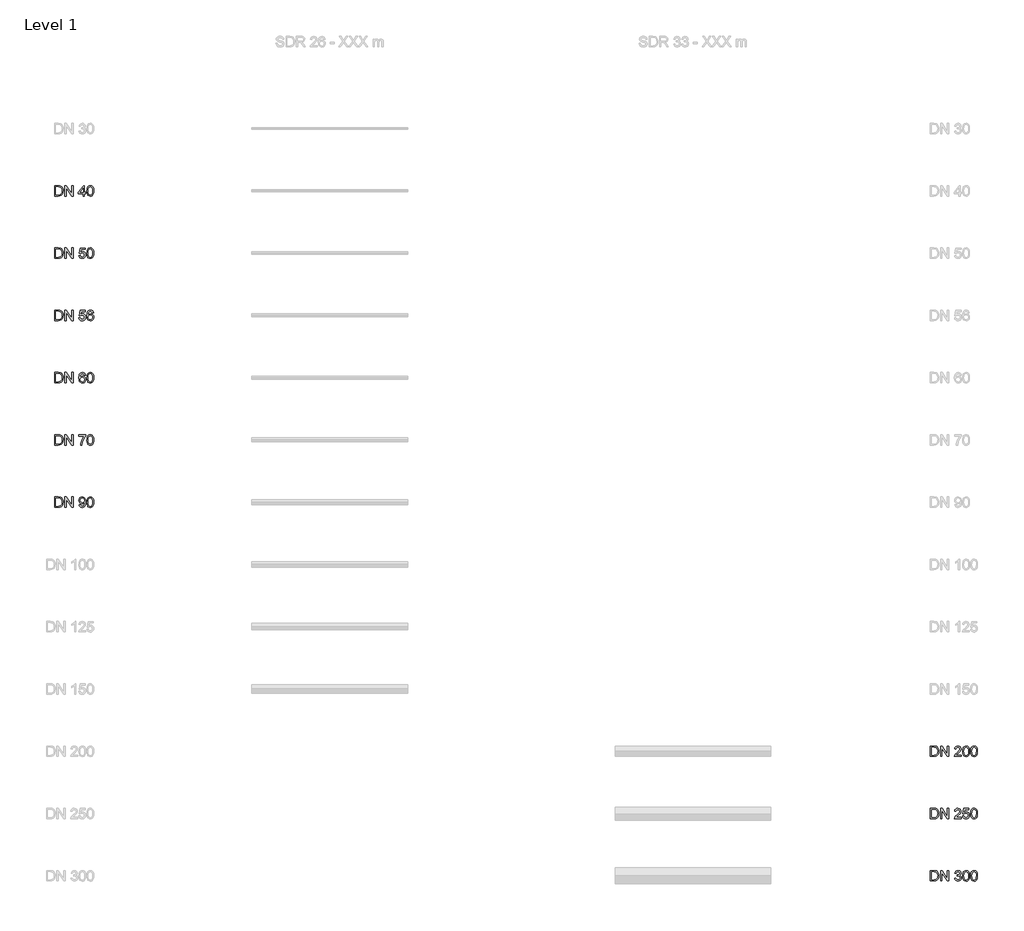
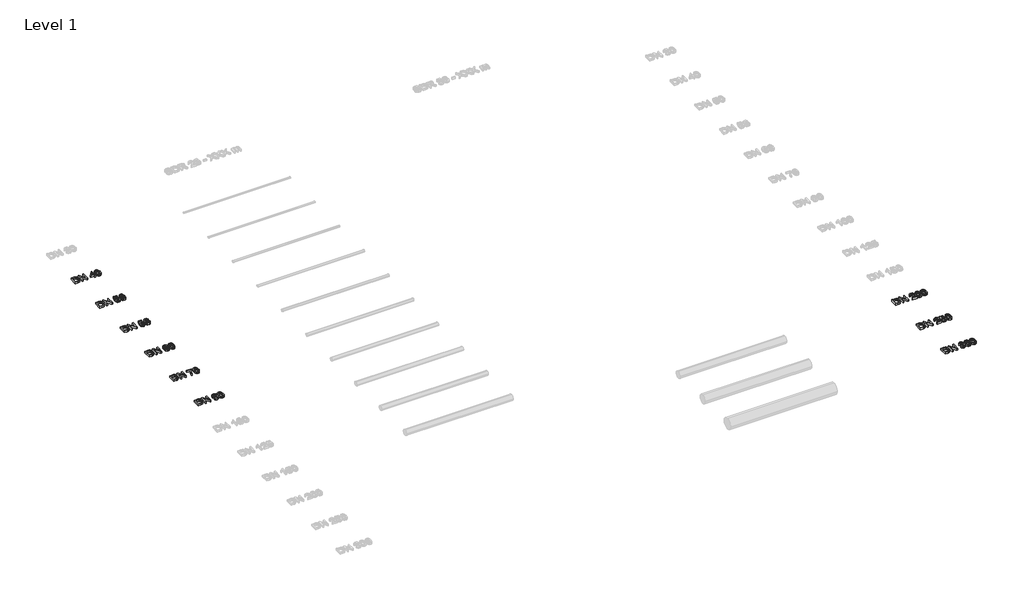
# One storey, part 2 of 4: 9 proxies.
"""IFC4 building model written with IfcOpenShell, lengths in millimetres."""

import ifcopenshell
import ifcopenshell.guid

model = None  # the IFC model being written
_history = None  # IfcOwnerHistory: only IFC2X3 demands one
_inside = {}  # id of a spatial element -> (the spatial element, [elements in it])
_under = {}  # id of a project, library or spatial element -> (it, [spatial elements below it])
_declared = {}  # id of a project -> (the project, [libraries it declares])
_typed = {}  # id of a type object -> (the type object, [elements of that type])
_made_of = {}  # id of a material, layer set ... -> (it, [elements and type objects made of it])


def new_model(schema):
    """Start an empty IFC model of exactly this schema.

    Asked for "IFC4X3", IfcOpenShell would pick the latest addendum, in which some entities
    have other attributes; the version numbers below select the first issue.
    IFC2X3 requires an IfcOwnerHistory on every rooted entity: one is made here for all.
    """
    global model, _history
    if schema == "IFC4X3":
        model = ifcopenshell.file(schema_version=(4, 3, 0, 0))
    else:
        model = ifcopenshell.file(schema=schema)
    _inside.clear()
    _under.clear()
    _declared.clear()
    _typed.clear()
    _made_of.clear()
    _history = None
    if model.schema == "IFC2X3":
        org = make("IfcOrganization", Name="unknown")
        user = make(
            "IfcPersonAndOrganization",
            ThePerson=make("IfcPerson", FamilyName="unknown"),
            TheOrganization=org,
        )
        app = make(
            "IfcApplication",
            ApplicationDeveloper=org,
            Version="unknown",
            ApplicationFullName="unknown",
            ApplicationIdentifier="unknown",
        )
        _history = make(
            "IfcOwnerHistory",
            OwningUser=user,
            OwningApplication=app,
            ChangeAction="ADDED",
            CreationDate=0,
        )
    return model


def make(cls, **values):
    """One entity of the class cls with the attributes given. An attribute that is None is left unset."""
    return model.create_entity(
        cls, **{name: value for name, value in values.items() if value is not None}
    )


def rooted(cls, **values):
    """An entity with a GlobalId (a new one), such as an element, a storey or a relation."""
    return make(cls, GlobalId=ifcopenshell.guid.new(), OwnerHistory=_history, **values)


def si_unit(unit_type, name, prefix=None):
    """IfcSIUnit, for example si_unit("LENGTHUNIT", "METRE", prefix="MILLI")."""
    return make("IfcSIUnit", UnitType=unit_type, Prefix=prefix, Name=name)


def assignment(units):
    """IfcUnitAssignment: the units of a project."""
    return None if units is None else make("IfcUnitAssignment", Units=units)


def point(xyz):
    """IfcCartesianPoint."""
    return None if xyz is None else make("IfcCartesianPoint", Coordinates=xyz)


def direction(xyz):
    """IfcDirection."""
    return None if xyz is None else make("IfcDirection", DirectionRatios=xyz)


def frame(location, z_axis=None, x_axis=None):
    """IfcAxis2Placement3D, a coordinate frame: its origin and axes. An axis left out is left unset."""
    return make(
        "IfcAxis2Placement3D",
        Location=point(location),
        Axis=direction(z_axis),
        RefDirection=direction(x_axis),
    )


def origin():
    """The frame at (0, 0, 0) with its axes left unset."""
    return frame((0.0, 0.0, 0.0))


def origin_with_axes():
    """The frame at (0, 0, 0) with the z axis (0, 0, 1) and the x axis (1, 0, 0) written out."""
    return frame((0.0, 0.0, 0.0), z_axis=(0.0, 0.0, 1.0), x_axis=(1.0, 0.0, 0.0))


def place(relative_to, where):
    """IfcLocalPlacement: puts the frame where relative to a parent placement (None: the world)."""
    return make(
        "IfcLocalPlacement", PlacementRelTo=relative_to, RelativePlacement=where
    )


def context(
    kind, dimensions, precision=None, world=None, true_north=None, identifier=None
):
    """IfcGeometricRepresentationContext, for example the 3D "Model" context."""
    return make(
        "IfcGeometricRepresentationContext",
        ContextIdentifier=identifier,
        ContextType=kind,
        CoordinateSpaceDimension=dimensions,
        Precision=precision,
        WorldCoordinateSystem=world,
        TrueNorth=true_north,
    )


def project(units=None, contexts=None):
    """IfcProject with its units and contexts."""
    return rooted(
        "IfcProject",
        Name="project",
        RepresentationContexts=contexts,
        UnitsInContext=assignment(units),
    )


def spatial(cls, under=None, at=None, **own):
    """A site, building, storey or space (cls), placed at a placement, below another one or the project."""
    s = rooted(cls, ObjectPlacement=at, **own)
    if under is not None:
        _under.setdefault(under.id(), (under, []))[1].append(s)
    return s


def polyline(points):
    """IfcPolyline through the points."""
    return make("IfcPolyline", Points=[point(p) for p in points])


def outline(outer, holes=None, kind="AREA"):
    """IfcArbitraryClosedProfileDef: a profile drawn as a closed curve; with holes, ...WithVoids."""
    if holes is None:
        return make("IfcArbitraryClosedProfileDef", ProfileType=kind, OuterCurve=outer)
    return make(
        "IfcArbitraryProfileDefWithVoids",
        ProfileType=kind,
        OuterCurve=outer,
        InnerCurves=holes,
    )


def extrude(swept, where, along, depth):
    """IfcExtrudedAreaSolid: the profile swept, set in the frame where, extruded along a direction by depth."""
    return make(
        "IfcExtrudedAreaSolid",
        SweptArea=swept,
        Position=where,
        ExtrudedDirection=direction(along),
        Depth=depth,
    )


def shape(context_of_items, identifier, shape_type, items):
    """IfcShapeRepresentation: the items that make up one representation, for example the "Body"."""
    return make(
        "IfcShapeRepresentation",
        ContextOfItems=context_of_items,
        RepresentationIdentifier=identifier,
        RepresentationType=shape_type,
        Items=items,
    )


def made_of(thing, what):
    """Note that an element or type object is made of a material, layer set ...; save() writes the relation."""
    if what is not None:
        _made_of.setdefault(what.id(), (what, []))[1].append(thing)
    return thing


def element(
    cls,
    number,
    at=None,
    inside=None,
    cuts=None,
    type_object=None,
    material=None,
    context=None,
    identifier="Body",
    shape_type=None,
    held_by="IfcProductDefinitionShape",
    body=None,
    shapes=None,
    **own,
):
    """One element of the class cls, such as IfcWall. Its Tag is "e" and its number.

    at: its placement. inside: the storey or other place that contains it. cuts: it is an
    opening in that element (IfcRelVoidsElement). A single representation is given by context,
    identifier, shape_type and body (its items); several are given by shapes. held_by: the class
    of the entity that holds the representations. save() writes the other relations.
    """
    e = rooted(cls, Tag="e%d" % number, ObjectPlacement=at, **own)
    if body is not None:
        shapes = [shape(context, identifier, shape_type, body)]
    if shapes is not None:
        e.Representation = make(held_by, Representations=shapes)
    if inside is not None:
        _inside.setdefault(inside.id(), (inside, []))[1].append(e)
    if cuts is not None:
        rooted(
            "IfcRelVoidsElement", RelatingBuildingElement=cuts, RelatedOpeningElement=e
        )
    if type_object is not None:
        _typed.setdefault(type_object.id(), (type_object, []))[1].append(e)
    return made_of(e, material)


def aggregate(whole, parts):
    """IfcRelAggregates: a whole, such as a stair, and the parts it consists of."""
    return rooted("IfcRelAggregates", RelatingObject=whole, RelatedObjects=parts)


def save(model, path):
    """Write the relations noted so far, then the file.

    IfcRelAggregates (storeys below a building ...), IfcRelContainedInSpatialStructure (elements
    in a storey), IfcRelDefinesByType, IfcRelAssociatesMaterial and IfcRelDeclares: one each for
    every whole, place, type object, material and project.
    """
    for whole, parts in _under.values():
        aggregate(whole, parts)
    for where, things in _inside.values():
        rooted(
            "IfcRelContainedInSpatialStructure",
            RelatedElements=things,
            RelatingStructure=where,
        )
    for kind, things in _typed.values():
        rooted("IfcRelDefinesByType", RelatedObjects=things, RelatingType=kind)
    for what, things in _made_of.values():
        rooted("IfcRelAssociatesMaterial", RelatedObjects=things, RelatingMaterial=what)
    for by, libraries in _declared.values():
        rooted("IfcRelDeclares", RelatingContext=by, RelatedDefinitions=libraries)
    model.write(path)


model = new_model("IFC4")

# Units and contexts
model_context = context("Model", 3, world=origin())
ifc_project = project(units=[si_unit("LENGTHUNIT", "METRE", prefix="MILLI")], contexts=[model_context])

# Site, building, storey
site = spatial("IfcSite", under=ifc_project)
building = spatial("IfcBuilding", under=site)
storey = spatial("IfcBuildingStorey", under=building, Name="Level 1", Elevation=0.0)

# Proxies
placement = place(None, origin())
element("IfcBuildingElementProxy", 1, Name="200mm Arial", ObjectType="200mm Arial", at=placement, inside=storey, context=model_context, shape_type="SweptSolid", body=[
    extrude(outline(polyline([(-19337.4878779, -713.949573), (-19337.4878779, -513.0369527), (-19268.17891, -513.0369527), (-19232.3226782, -515.9309577), (-19216.3075487, -521.5105013), (-19202.7940167, -530.302881), (-19188.90034, -545.606772), (-19179.0043144, -564.6385338), (-19173.0814143, -587.0302846), (-19171.1071142, -612.4141423), (-19176.4536659, -652.9547382), (-19190.187927, -682.2136195), (-19208.5329759, -700.436041), (-19232.5434074, -710.5160077), (-19264.8434466, -713.949573), (-19337.4878779, -713.949573)]), holes=[polyline([(-19312.3738004, -688.8354954), (-19267.9336553, -688.8354954), (-19235.6090907, -685.2057264), (-19216.9697363, -674.9540815), (-19208.2448016, -664.0831685), (-19201.6903707, -650.0116822), (-19197.5884865, -632.6783089), (-19196.2211917, -612.0217348), (-19198.9005989, -584.6513144), (-19206.9388205, -564.4423301), (-19218.8152776, -550.5609162), (-19233.0093913, -542.1732067), (-19268.6203684, -538.1510302), (-19312.3738004, -538.1510302), (-19312.3738004, -688.8354954)])]), origin_with_axes(), (0.0, 0.0, 1.0), 50.0),
    extrude(outline(polyline([(-19136.5752576, -713.949573), (-19136.5752576, -513.0369527), (-19109.6953465, -513.0369527), (-19004.7263505, -672.2072292), (-19004.7263505, -513.0369527), (-18979.612273, -513.0369527), (-18979.612273, -713.949573), (-19006.4921841, -713.949573), (-19111.4611801, -554.7302454), (-19111.4611801, -713.949573), (-19136.5752576, -713.949573)])), origin_with_axes(), (0.0, 0.0, 1.0), 50.0),
    extrude(outline(polyline([(-18784.9781721, -713.949573), (-18784.9781721, -666.8606776), (-18876.0167031, -666.8606776), (-18876.0167031, -641.7466), (-18778.6996527, -516.1762123), (-18759.8640945, -516.1762123), (-18759.8640945, -641.7466), (-18734.750017, -641.7466), (-18734.750017, -666.8606776), (-18759.8640945, -666.8606776), (-18759.8640945, -713.949573), (-18784.9781721, -713.949573)]), holes=[polyline([(-18784.9781721, -641.7466), (-18784.9781721, -564.1480245), (-18845.1146156, -641.7466), (-18784.9781721, -641.7466)])]), origin_with_axes(), (0.0, 0.0, 1.0), 50.0),
    extrude(outline(polyline([(-18712.7751992, -615.1119436), (-18710.9296578, -582.9529258), (-18705.3930338, -557.3054194), (-18696.2205094, -537.7770168), (-18683.4672669, -523.9753106), (-18667.0413358, -515.7715422), (-18646.8507456, -513.0369527), (-18631.3751764, -514.6556334), (-18617.5182879, -519.5116758), (-18605.930005, -527.4150073), (-18597.2602527, -538.1755557), (-18585.4880288, -567.9004209), (-18580.9262921, -615.1119436), (-18582.7534393, -647.0870203), (-18588.2348811, -672.6732131), (-18597.3522232, -692.2200098), (-18610.0870716, -706.0768983), (-18626.5497909, -714.335849), (-18646.8507456, -717.0888326), (-18672.9458418, -712.3063667), (-18692.7624186, -697.9589689), (-18701.5180101, -682.8298218), (-18707.772004, -663.9789353), (-18712.7751992, -615.1119436)]), holes=[polyline([(-18687.6611216, -615.0628927), (-18684.7180657, -654.5672876), (-18675.8888978, -677.4311536), (-18662.7432478, -688.3388547), (-18646.8507456, -691.9747551), (-18630.9582434, -688.326592), (-18617.8125935, -677.3821026), (-18608.9834256, -654.5059739), (-18606.0403696, -615.0628927), (-18608.8853237, -576.4475459), (-18617.420186, -553.4058703), (-18630.5413105, -541.9647402), (-18647.1450512, -538.1510302), (-18662.8658751, -541.5110191), (-18675.4964903, -551.5909857), (-18684.6199638, -576.0674012), (-18687.6611216, -615.0628927)])]), origin_with_axes(), (0.0, 0.0, 1.0), 50.0),
])
element("IfcBuildingElementProxy", 2, Name="200mm Arial", ObjectType="200mm Arial", at=placement, inside=storey, context=model_context, shape_type="SweptSolid", body=[
    extrude(outline(polyline([(-19337.4878779, -1913.949573), (-19337.4878779, -1713.0369527), (-19268.17891, -1713.0369527), (-19232.3226782, -1715.9309577), (-19216.3075487, -1721.5105013), (-19202.7940167, -1730.302881), (-19188.90034, -1745.606772), (-19179.0043144, -1764.6385338), (-19173.0814143, -1787.0302846), (-19171.1071142, -1812.4141423), (-19176.4536659, -1852.9547382), (-19190.187927, -1882.2136195), (-19208.5329759, -1900.436041), (-19232.5434074, -1910.5160077), (-19264.8434466, -1913.949573), (-19337.4878779, -1913.949573)]), holes=[polyline([(-19312.3738004, -1888.8354954), (-19267.9336553, -1888.8354954), (-19235.6090907, -1885.2057264), (-19216.9697363, -1874.9540815), (-19208.2448016, -1864.0831685), (-19201.6903707, -1850.0116822), (-19197.5884865, -1832.6783089), (-19196.2211917, -1812.0217348), (-19198.9005989, -1784.6513144), (-19206.9388205, -1764.4423301), (-19218.8152776, -1750.5609162), (-19233.0093913, -1742.1732067), (-19268.6203684, -1738.1510302), (-19312.3738004, -1738.1510302), (-19312.3738004, -1888.8354954)])]), origin_with_axes(), (0.0, 0.0, 1.0), 50.0),
    extrude(outline(polyline([(-19136.5752576, -1913.949573), (-19136.5752576, -1713.0369527), (-19109.6953465, -1713.0369527), (-19004.7263505, -1872.2072292), (-19004.7263505, -1713.0369527), (-18979.612273, -1713.0369527), (-18979.612273, -1913.949573), (-19006.4921841, -1913.949573), (-19111.4611801, -1754.7302454), (-19111.4611801, -1913.949573), (-19136.5752576, -1913.949573)])), origin_with_axes(), (0.0, 0.0, 1.0), 50.0),
    extrude(outline(polyline([(-18866.5989241, -1860.5821582), (-18841.4848465, -1857.4428985), (-18836.8740589, -1872.5199289), (-18828.8297059, -1883.3172655), (-18817.3885758, -1889.8103827), (-18802.5874569, -1891.9747551), (-18784.5857646, -1888.9642541), (-18771.0967581, -1879.9327511), (-18762.6722604, -1865.9225785), (-18759.8640945, -1847.9760685), (-18762.4944508, -1831.0780222), (-18770.3855196, -1818.1531014), (-18783.5986146, -1809.9493329), (-18802.1950494, -1807.2147434), (-18824.2434437, -1811.5802764), (-18838.3455868, -1822.9110419), (-18863.4596644, -1819.7717822), (-18841.4848465, -1716.1762123), (-18744.1677961, -1716.1762123), (-18744.1677961, -1741.2902899), (-18821.1777604, -1741.2902899), (-18831.9199147, -1796.619742), (-18813.979536, -1785.7304349), (-18795.1807661, -1782.1006659), (-18771.7160261, -1786.601089), (-18752.2366745, -1800.1023582), (-18739.1216814, -1820.6792244), (-18734.750017, -1846.4064386), (-18738.6863543, -1871.5205162), (-18750.4953664, -1893.0048247), (-18760.9309523, -1903.5415782), (-18773.1078464, -1911.0678307), (-18787.0260485, -1915.5835821), (-18802.6855588, -1917.0888326), (-18827.3520466, -1913.2199403), (-18847.0030765, -1901.6132634), (-18860.4736888, -1883.6177025), (-18866.5989241, -1860.5821582)])), origin_with_axes(), (0.0, 0.0, 1.0), 50.0),
    extrude(outline(polyline([(-18712.7751992, -1815.1119436), (-18710.9296578, -1782.9529258), (-18705.3930338, -1757.3054194), (-18696.2205094, -1737.7770168), (-18683.4672669, -1723.9753106), (-18667.0413358, -1715.7715422), (-18646.8507456, -1713.0369527), (-18631.3751764, -1714.6556334), (-18617.5182879, -1719.5116758), (-18605.930005, -1727.4150073), (-18597.2602527, -1738.1755557), (-18585.4880288, -1767.9004209), (-18580.9262921, -1815.1119436), (-18582.7534393, -1847.0870203), (-18588.2348811, -1872.6732131), (-18597.3522232, -1892.2200098), (-18610.0870716, -1906.0768983), (-18626.5497909, -1914.335849), (-18646.8507456, -1917.0888326), (-18672.9458418, -1912.3063667), (-18692.7624186, -1897.9589689), (-18701.5180101, -1882.8298218), (-18707.772004, -1863.9789353), (-18712.7751992, -1815.1119436)]), holes=[polyline([(-18687.6611216, -1815.0628927), (-18684.7180657, -1854.5672876), (-18675.8888978, -1877.4311536), (-18662.7432478, -1888.3388547), (-18646.8507456, -1891.9747551), (-18630.9582434, -1888.326592), (-18617.8125935, -1877.3821026), (-18608.9834256, -1854.5059739), (-18606.0403696, -1815.0628927), (-18608.8853237, -1776.4475459), (-18617.420186, -1753.4058703), (-18630.5413105, -1741.9647402), (-18647.1450512, -1738.1510302), (-18662.8658751, -1741.5110191), (-18675.4964903, -1751.5909857), (-18684.6199638, -1776.0674012), (-18687.6611216, -1815.0628927)])]), origin_with_axes(), (0.0, 0.0, 1.0), 50.0),
])
element("IfcBuildingElementProxy", 3, Name="200mm Arial", ObjectType="200mm Arial", at=placement, inside=storey, context=model_context, shape_type="SweptSolid", body=[
    extrude(outline(polyline([(-19337.4878779, -3113.949573), (-19337.4878779, -2913.0369527), (-19268.17891, -2913.0369527), (-19232.3226782, -2915.9309577), (-19216.3075487, -2921.5105013), (-19202.7940167, -2930.302881), (-19188.90034, -2945.606772), (-19179.0043144, -2964.6385338), (-19173.0814143, -2987.0302846), (-19171.1071142, -3012.4141423), (-19176.4536659, -3052.9547382), (-19190.187927, -3082.2136195), (-19208.5329759, -3100.436041), (-19232.5434074, -3110.5160077), (-19264.8434466, -3113.949573), (-19337.4878779, -3113.949573)]), holes=[polyline([(-19312.3738004, -3088.8354954), (-19267.9336553, -3088.8354954), (-19235.6090907, -3085.2057264), (-19216.9697363, -3074.9540815), (-19208.2448016, -3064.0831685), (-19201.6903707, -3050.0116822), (-19197.5884865, -3032.6783089), (-19196.2211917, -3012.0217348), (-19198.9005989, -2984.6513144), (-19206.9388205, -2964.4423301), (-19218.8152776, -2950.5609162), (-19233.0093913, -2942.1732067), (-19268.6203684, -2938.1510302), (-19312.3738004, -2938.1510302), (-19312.3738004, -3088.8354954)])]), origin_with_axes(), (0.0, 0.0, 1.0), 50.0),
    extrude(outline(polyline([(-19136.5752576, -3113.949573), (-19136.5752576, -2913.0369527), (-19109.6953465, -2913.0369527), (-19004.7263505, -3072.2072292), (-19004.7263505, -2913.0369527), (-18979.612273, -2913.0369527), (-18979.612273, -3113.949573), (-19006.4921841, -3113.949573), (-19111.4611801, -2954.7302454), (-19111.4611801, -3113.949573), (-19136.5752576, -3113.949573)])), origin_with_axes(), (0.0, 0.0, 1.0), 50.0),
    extrude(outline(polyline([(-18866.5989241, -3060.5821582), (-18841.4848465, -3057.4428985), (-18836.8740589, -3072.5199289), (-18828.8297059, -3083.3172655), (-18817.3885758, -3089.8103827), (-18802.5874569, -3091.9747551), (-18784.5857646, -3088.9642541), (-18771.0967581, -3079.9327511), (-18762.6722604, -3065.9225785), (-18759.8640945, -3047.9760685), (-18762.4944508, -3031.0780222), (-18770.3855196, -3018.1531014), (-18783.5986146, -3009.9493329), (-18802.1950494, -3007.2147434), (-18824.2434437, -3011.5802764), (-18838.3455868, -3022.9110419), (-18863.4596644, -3019.7717822), (-18841.4848465, -2916.1762123), (-18744.1677961, -2916.1762123), (-18744.1677961, -2941.2902899), (-18821.1777604, -2941.2902899), (-18831.9199147, -2996.619742), (-18813.979536, -2985.7304349), (-18795.1807661, -2982.1006659), (-18771.7160261, -2986.601089), (-18752.2366745, -3000.1023582), (-18739.1216814, -3020.6792244), (-18734.750017, -3046.4064386), (-18738.6863543, -3071.5205162), (-18750.4953664, -3093.0048247), (-18760.9309523, -3103.5415782), (-18773.1078464, -3111.0678307), (-18787.0260485, -3115.5835821), (-18802.6855588, -3117.0888326), (-18827.3520466, -3113.2199403), (-18847.0030765, -3101.6132634), (-18860.4736888, -3083.6177025), (-18866.5989241, -3060.5821582)])), origin_with_axes(), (0.0, 0.0, 1.0), 50.0),
    extrude(outline(polyline([(-18584.0655518, -2966.4043674), (-18609.1796293, -2969.5436271), (-18618.6955103, -2948.5988789), (-18630.0875894, -2940.7629924), (-18643.8586387, -2938.1510302), (-18666.5201696, -2944.2333458), (-18675.9563428, -2953.8411973), (-18683.6634706, -2967.066555), (-18688.8690008, -2985.7733545), (-18690.8003813, -3011.8255311), (-18680.726546, -3000.0717013), (-18668.6538852, -2991.7882251), (-18655.2568492, -2986.8770005), (-18641.2098884, -2985.2399256), (-18618.0087972, -2989.7158232), (-18598.5355769, -3003.143516), (-18585.3286133, -3023.6590686), (-18580.9262921, -3049.3985455), (-18582.998694, -3067.3818437), (-18589.2158997, -3084.0530295), (-18599.0628744, -3098.1919608), (-18612.0245834, -3108.5784958), (-18627.5124154, -3114.9612484), (-18644.9377592, -3117.0888326), (-18673.4302198, -3111.4479754), (-18696.1224075, -3094.5254036), (-18704.78143, -3081.4165418), (-18710.966446, -3064.6533856), (-18715.9144588, -3020.1641897), (-18710.4207544, -2970.144501), (-18703.5536238, -2951.0667539), (-18693.939641, -2935.9437382), (-18683.5193835, -2925.9220195), (-18671.4375256, -2918.763649), (-18642.2890089, -2913.0369527), (-18620.2528774, -2916.5808825), (-18602.6068043, -2927.2126722), (-18590.2459693, -2944.0984558), (-18584.0655518, -2966.4043674)]), holes=[polyline([(-18690.8003813, -3049.0061381), (-18684.9878458, -3070.7602267), (-18669.536802, -3086.554627), (-18646.8997965, -3091.9747551), (-18630.3267127, -3089.1665892), (-18617.2975587, -3080.7420915), (-18608.8546669, -3067.4983397), (-18606.0403696, -3050.2324114), (-18608.8178787, -3033.6593275), (-18617.1504059, -3021.022581), (-18630.4002891, -3013.0211476), (-18647.9298661, -3010.3540031), (-18664.4784246, -3013.0211476), (-18678.3169189, -3021.022581), (-18687.6795157, -3033.3527592), (-18690.8003813, -3049.0061381)])]), origin_with_axes(), (0.0, 0.0, 1.0), 50.0),
])
element("IfcBuildingElementProxy", 4, Name="200mm Arial", ObjectType="200mm Arial", at=placement, inside=storey, context=model_context, shape_type="SweptSolid", body=[
    extrude(outline(polyline([(-19337.4878779, -4313.949573), (-19337.4878779, -4113.0369527), (-19268.17891, -4113.0369527), (-19232.3226782, -4115.9309577), (-19216.3075487, -4121.5105013), (-19202.7940167, -4130.302881), (-19188.90034, -4145.606772), (-19179.0043144, -4164.6385338), (-19173.0814143, -4187.0302846), (-19171.1071142, -4212.4141423), (-19176.4536659, -4252.9547382), (-19190.187927, -4282.2136195), (-19208.5329759, -4300.436041), (-19232.5434074, -4310.5160077), (-19264.8434466, -4313.949573), (-19337.4878779, -4313.949573)]), holes=[polyline([(-19312.3738004, -4288.8354954), (-19267.9336553, -4288.8354954), (-19235.6090907, -4285.2057264), (-19216.9697363, -4274.9540815), (-19208.2448016, -4264.0831685), (-19201.6903707, -4250.0116822), (-19197.5884865, -4232.6783089), (-19196.2211917, -4212.0217348), (-19198.9005989, -4184.6513144), (-19206.9388205, -4164.4423301), (-19218.8152776, -4150.5609162), (-19233.0093913, -4142.1732067), (-19268.6203684, -4138.1510302), (-19312.3738004, -4138.1510302), (-19312.3738004, -4288.8354954)])]), origin_with_axes(), (0.0, 0.0, 1.0), 50.0),
    extrude(outline(polyline([(-19136.5752576, -4313.949573), (-19136.5752576, -4113.0369527), (-19109.6953465, -4113.0369527), (-19004.7263505, -4272.2072292), (-19004.7263505, -4113.0369527), (-18979.612273, -4113.0369527), (-18979.612273, -4313.949573), (-19006.4921841, -4313.949573), (-19111.4611801, -4154.7302454), (-19111.4611801, -4313.949573), (-19136.5752576, -4313.949573)])), origin_with_axes(), (0.0, 0.0, 1.0), 50.0),
    extrude(outline(polyline([(-18737.8892767, -4166.4043674), (-18763.0033542, -4169.5436271), (-18772.5192352, -4148.5988789), (-18783.9113143, -4140.7629924), (-18797.6823636, -4138.1510302), (-18820.3438945, -4144.2333458), (-18829.7800677, -4153.8411973), (-18837.4871955, -4167.066555), (-18842.6927257, -4185.7733545), (-18844.6241062, -4211.8255311), (-18834.5502709, -4200.0717013), (-18822.4776101, -4191.7882251), (-18809.0805741, -4186.8770005), (-18795.0336133, -4185.2399256), (-18771.8325221, -4189.7158232), (-18752.3593018, -4203.143516), (-18739.1523382, -4223.6590686), (-18734.750017, -4249.3985455), (-18736.8224189, -4267.3818437), (-18743.0396246, -4284.0530295), (-18752.8865994, -4298.1919608), (-18765.8483083, -4308.5784958), (-18781.3361403, -4314.9612484), (-18798.7614842, -4317.0888326), (-18827.2539447, -4311.4479754), (-18849.9461324, -4294.5254036), (-18858.6051549, -4281.4165418), (-18864.7901709, -4264.6533856), (-18869.7381838, -4220.1641897), (-18864.2444793, -4170.144501), (-18857.3773487, -4151.0667539), (-18847.7633659, -4135.9437382), (-18837.3431084, -4125.9220195), (-18825.2612505, -4118.763649), (-18796.1127338, -4113.0369527), (-18774.0766023, -4116.5808825), (-18756.4305292, -4127.2126722), (-18744.0696942, -4144.0984558), (-18737.8892767, -4166.4043674)]), holes=[polyline([(-18844.6241062, -4249.0061381), (-18838.8115707, -4270.7602267), (-18823.3605269, -4286.554627), (-18800.7235215, -4291.9747551), (-18784.1504376, -4289.1665892), (-18771.1212836, -4280.7420915), (-18762.6783918, -4267.4983397), (-18759.8640945, -4250.2324114), (-18762.6416036, -4233.6593275), (-18770.9741308, -4221.022581), (-18784.224014, -4213.0211476), (-18801.7535911, -4210.3540031), (-18818.3021495, -4213.0211476), (-18832.1406439, -4221.022581), (-18841.5032406, -4233.3527592), (-18844.6241062, -4249.0061381)])]), origin_with_axes(), (0.0, 0.0, 1.0), 50.0),
    extrude(outline(polyline([(-18712.7751992, -4215.1119436), (-18710.9296578, -4182.9529258), (-18705.3930338, -4157.3054194), (-18696.2205094, -4137.7770168), (-18683.4672669, -4123.9753106), (-18667.0413358, -4115.7715422), (-18646.8507456, -4113.0369527), (-18631.3751764, -4114.6556334), (-18617.5182879, -4119.5116758), (-18605.930005, -4127.4150073), (-18597.2602527, -4138.1755557), (-18585.4880288, -4167.9004209), (-18580.9262921, -4215.1119436), (-18582.7534393, -4247.0870203), (-18588.2348811, -4272.6732131), (-18597.3522232, -4292.2200098), (-18610.0870716, -4306.0768983), (-18626.5497909, -4314.335849), (-18646.8507456, -4317.0888326), (-18672.9458418, -4312.3063667), (-18692.7624186, -4297.9589689), (-18701.5180101, -4282.8298218), (-18707.772004, -4263.9789353), (-18712.7751992, -4215.1119436)]), holes=[polyline([(-18687.6611216, -4215.0628927), (-18684.7180657, -4254.5672876), (-18675.8888978, -4277.4311536), (-18662.7432478, -4288.3388547), (-18646.8507456, -4291.9747551), (-18630.9582434, -4288.326592), (-18617.8125935, -4277.3821026), (-18608.9834256, -4254.5059739), (-18606.0403696, -4215.0628927), (-18608.8853237, -4176.4475459), (-18617.420186, -4153.4058703), (-18630.5413105, -4141.9647402), (-18647.1450512, -4138.1510302), (-18662.8658751, -4141.5110191), (-18675.4964903, -4151.5909857), (-18684.6199638, -4176.0674012), (-18687.6611216, -4215.0628927)])]), origin_with_axes(), (0.0, 0.0, 1.0), 50.0),
])
element("IfcBuildingElementProxy", 5, Name="200mm Arial", ObjectType="200mm Arial", at=placement, inside=storey, context=model_context, shape_type="SweptSolid", body=[
    extrude(outline(polyline([(-19337.4878779, -5513.949573), (-19337.4878779, -5313.0369527), (-19268.17891, -5313.0369527), (-19232.3226782, -5315.9309577), (-19216.3075487, -5321.5105013), (-19202.7940167, -5330.302881), (-19188.90034, -5345.606772), (-19179.0043144, -5364.6385338), (-19173.0814143, -5387.0302846), (-19171.1071142, -5412.4141423), (-19176.4536659, -5452.9547382), (-19190.187927, -5482.2136195), (-19208.5329759, -5500.436041), (-19232.5434074, -5510.5160077), (-19264.8434466, -5513.949573), (-19337.4878779, -5513.949573)]), holes=[polyline([(-19312.3738004, -5488.8354954), (-19267.9336553, -5488.8354954), (-19235.6090907, -5485.2057264), (-19216.9697363, -5474.9540815), (-19208.2448016, -5464.0831685), (-19201.6903707, -5450.0116822), (-19197.5884865, -5432.6783089), (-19196.2211917, -5412.0217348), (-19198.9005989, -5384.6513144), (-19206.9388205, -5364.4423301), (-19218.8152776, -5350.5609162), (-19233.0093913, -5342.1732067), (-19268.6203684, -5338.1510302), (-19312.3738004, -5338.1510302), (-19312.3738004, -5488.8354954)])]), origin_with_axes(), (0.0, 0.0, 1.0), 50.0),
    extrude(outline(polyline([(-19136.5752576, -5513.949573), (-19136.5752576, -5313.0369527), (-19109.6953465, -5313.0369527), (-19004.7263505, -5472.2072292), (-19004.7263505, -5313.0369527), (-18979.612273, -5313.0369527), (-18979.612273, -5513.949573), (-19006.4921841, -5513.949573), (-19111.4611801, -5354.7302454), (-19111.4611801, -5513.949573), (-19136.5752576, -5513.949573)])), origin_with_axes(), (0.0, 0.0, 1.0), 50.0),
    extrude(outline(polyline([(-18866.5989241, -5341.2902899), (-18866.5989241, -5316.1762123), (-18734.750017, -5316.1762123), (-18734.750017, -5336.4832985), (-18753.5426556, -5360.2668695), (-18772.1513532, -5390.5129008), (-18788.5650215, -5424.4622776), (-18800.7725724, -5459.3558849), (-18810.0922496, -5513.949573), (-18835.2063271, -5513.949573), (-18832.4901318, -5488.0629432), (-18825.2244623, -5457.2957457), (-18813.6055227, -5424.6830068), (-18797.8295164, -5393.2597531), (-18779.4108912, -5364.8531317), (-18759.8640945, -5341.2902899), (-18866.5989241, -5341.2902899)])), origin_with_axes(), (0.0, 0.0, 1.0), 50.0),
    extrude(outline(polyline([(-18712.7751992, -5415.1119436), (-18710.9296578, -5382.9529258), (-18705.3930338, -5357.3054194), (-18696.2205094, -5337.7770168), (-18683.4672669, -5323.9753106), (-18667.0413358, -5315.7715422), (-18646.8507456, -5313.0369527), (-18631.3751764, -5314.6556334), (-18617.5182879, -5319.5116758), (-18605.930005, -5327.4150073), (-18597.2602527, -5338.1755557), (-18585.4880288, -5367.9004209), (-18580.9262921, -5415.1119436), (-18582.7534393, -5447.0870203), (-18588.2348811, -5472.6732131), (-18597.3522232, -5492.2200098), (-18610.0870716, -5506.0768983), (-18626.5497909, -5514.335849), (-18646.8507456, -5517.0888326), (-18672.9458418, -5512.3063667), (-18692.7624186, -5497.9589689), (-18701.5180101, -5482.8298218), (-18707.772004, -5463.9789353), (-18712.7751992, -5415.1119436)]), holes=[polyline([(-18687.6611216, -5415.0628927), (-18684.7180657, -5454.5672876), (-18675.8888978, -5477.4311536), (-18662.7432478, -5488.3388547), (-18646.8507456, -5491.9747551), (-18630.9582434, -5488.326592), (-18617.8125935, -5477.3821026), (-18608.9834256, -5454.5059739), (-18606.0403696, -5415.0628927), (-18608.8853237, -5376.4475459), (-18617.420186, -5353.4058703), (-18630.5413105, -5341.9647402), (-18647.1450512, -5338.1510302), (-18662.8658751, -5341.5110191), (-18675.4964903, -5351.5909857), (-18684.6199638, -5376.0674012), (-18687.6611216, -5415.0628927)])]), origin_with_axes(), (0.0, 0.0, 1.0), 50.0),
])
element("IfcBuildingElementProxy", 6, Name="200mm Arial", ObjectType="200mm Arial", at=placement, inside=storey, context=model_context, shape_type="SweptSolid", body=[
    extrude(outline(polyline([(-19337.4878779, -6713.949573), (-19337.4878779, -6513.0369527), (-19268.17891, -6513.0369527), (-19232.3226782, -6515.9309577), (-19216.3075487, -6521.5105013), (-19202.7940167, -6530.302881), (-19188.90034, -6545.606772), (-19179.0043144, -6564.6385338), (-19173.0814143, -6587.0302846), (-19171.1071142, -6612.4141423), (-19176.4536659, -6652.9547382), (-19190.187927, -6682.2136195), (-19208.5329759, -6700.436041), (-19232.5434074, -6710.5160077), (-19264.8434466, -6713.949573), (-19337.4878779, -6713.949573)]), holes=[polyline([(-19312.3738004, -6688.8354954), (-19267.9336553, -6688.8354954), (-19235.6090907, -6685.2057264), (-19216.9697363, -6674.9540815), (-19208.2448016, -6664.0831685), (-19201.6903707, -6650.0116822), (-19197.5884865, -6632.6783089), (-19196.2211917, -6612.0217348), (-19198.9005989, -6584.6513144), (-19206.9388205, -6564.4423301), (-19218.8152776, -6550.5609162), (-19233.0093913, -6542.1732067), (-19268.6203684, -6538.1510302), (-19312.3738004, -6538.1510302), (-19312.3738004, -6688.8354954)])]), origin_with_axes(), (0.0, 0.0, 1.0), 50.0),
    extrude(outline(polyline([(-19136.5752576, -6713.949573), (-19136.5752576, -6513.0369527), (-19109.6953465, -6513.0369527), (-19004.7263505, -6672.2072292), (-19004.7263505, -6513.0369527), (-18979.612273, -6513.0369527), (-18979.612273, -6713.949573), (-19006.4921841, -6713.949573), (-19111.4611801, -6554.7302454), (-19111.4611801, -6713.949573), (-19136.5752576, -6713.949573)])), origin_with_axes(), (0.0, 0.0, 1.0), 50.0),
    extrude(outline(polyline([(-18863.4596644, -6663.7214179), (-18838.3455868, -6660.5821582), (-18834.0536302, -6674.8375855), (-18827.0638723, -6684.5435388), (-18817.5479914, -6690.116951), (-18805.6776657, -6691.9747551), (-18785.3460541, -6687.1922892), (-18771.562742, -6674.4145212), (-18763.3467108, -6652.5868562), (-18759.7169417, -6623.4506021), (-18759.8640945, -6618.5455089), (-18768.5645037, -6629.1650358), (-18779.9504515, -6637.5772708), (-18793.2003347, -6643.0587125), (-18807.4925502, -6644.8858597), (-18830.3932044, -6640.4222249), (-18849.4556231, -6627.0313202), (-18862.3130988, -6606.3440894), (-18866.5989241, -6579.9914758), (-18862.1046324, -6552.7682081), (-18848.6217572, -6531.4310524), (-18828.3698534, -6517.6354776), (-18803.5684756, -6513.0369527), (-18784.8371506, -6515.6611776), (-18767.7858202, -6523.5338523), (-18753.5242615, -6536.2625693), (-18743.162252, -6553.4549212), (-18736.8530757, -6577.2200981), (-18734.750017, -6609.6672901), (-18736.8469444, -6644.070388), (-18743.1377265, -6670.6621249), (-18753.5671811, -6690.6442486), (-18768.0801258, -6705.2185069), (-18786.0511612, -6714.1212512), (-18806.8548881, -6717.0888326), (-18828.3269338, -6713.5878223), (-18845.4579721, -6703.0847914), (-18857.4386624, -6686.2419274), (-18863.4596644, -6663.7214179)]), holes=[polyline([(-18759.8640945, -6579.4028646), (-18762.5741586, -6562.3821909), (-18770.7043507, -6549.2855919), (-18783.3227031, -6540.9346706), (-18799.4972481, -6538.1510302), (-18816.2726671, -6541.1492685), (-18829.7126227, -6550.1439832), (-18838.5417906, -6563.9089012), (-18841.4848465, -6581.2177491), (-18838.7012061, -6596.7362379), (-18830.3502848, -6609.0541534), (-18817.241423, -6617.092375), (-18800.1839612, -6619.7717822), (-18784.1381749, -6617.092375), (-18771.2193855, -6609.0541534), (-18762.7029173, -6596.2825168), (-18759.8640945, -6579.4028646)])]), origin_with_axes(), (0.0, 0.0, 1.0), 50.0),
    extrude(outline(polyline([(-18712.7751992, -6615.1119436), (-18710.9296578, -6582.9529258), (-18705.3930338, -6557.3054194), (-18696.2205094, -6537.7770168), (-18683.4672669, -6523.9753106), (-18667.0413358, -6515.7715422), (-18646.8507456, -6513.0369527), (-18631.3751764, -6514.6556334), (-18617.5182879, -6519.5116758), (-18605.930005, -6527.4150073), (-18597.2602527, -6538.1755557), (-18585.4880288, -6567.9004209), (-18580.9262921, -6615.1119436), (-18582.7534393, -6647.0870203), (-18588.2348811, -6672.6732131), (-18597.3522232, -6692.2200098), (-18610.0870716, -6706.0768983), (-18626.5497909, -6714.335849), (-18646.8507456, -6717.0888326), (-18672.9458418, -6712.3063667), (-18692.7624186, -6697.9589689), (-18701.5180101, -6682.8298218), (-18707.772004, -6663.9789353), (-18712.7751992, -6615.1119436)]), holes=[polyline([(-18687.6611216, -6615.0628927), (-18684.7180657, -6654.5672876), (-18675.8888978, -6677.4311536), (-18662.7432478, -6688.3388547), (-18646.8507456, -6691.9747551), (-18630.9582434, -6688.326592), (-18617.8125935, -6677.3821026), (-18608.9834256, -6654.5059739), (-18606.0403696, -6615.0628927), (-18608.8853237, -6576.4475459), (-18617.420186, -6553.4058703), (-18630.5413105, -6541.9647402), (-18647.1450512, -6538.1510302), (-18662.8658751, -6541.5110191), (-18675.4964903, -6551.5909857), (-18684.6199638, -6576.0674012), (-18687.6611216, -6615.0628927)])]), origin_with_axes(), (0.0, 0.0, 1.0), 50.0),
])
element("IfcBuildingElementProxy", 7, Name="200mm Arial", ObjectType="200mm Arial", at=placement, inside=storey, context=model_context, shape_type="SweptSolid", body=[
    extrude(outline(polyline([(-2460.6923074, -11513.949573), (-2460.6923074, -11313.0369527), (-2391.3833395, -11313.0369527), (-2355.5271077, -11315.9309577), (-2339.5119782, -11321.5105013), (-2325.9984462, -11330.302881), (-2312.1047695, -11345.606772), (-2302.2087438, -11364.6385338), (-2296.2858437, -11387.0302846), (-2294.3115437, -11412.4141423), (-2299.6580953, -11452.9547382), (-2313.3923565, -11482.2136195), (-2331.7374053, -11500.436041), (-2355.7478369, -11510.5160077), (-2388.0478761, -11513.949573), (-2460.6923074, -11513.949573)]), holes=[polyline([(-2435.5782298, -11488.8354954), (-2391.1380848, -11488.8354954), (-2358.8135202, -11485.2057264), (-2340.1741658, -11474.9540815), (-2331.4492311, -11464.0831685), (-2324.8948002, -11450.0116822), (-2320.792916, -11432.6783089), (-2319.4256212, -11412.0217348), (-2322.1050284, -11384.6513144), (-2330.14325, -11364.4423301), (-2342.0197071, -11350.5609162), (-2356.2138207, -11342.1732067), (-2391.8247979, -11338.1510302), (-2435.5782298, -11338.1510302), (-2435.5782298, -11488.8354954)])]), origin_with_axes(), (0.0, 0.0, 1.0), 50.0),
    extrude(outline(polyline([(-2259.7796871, -11513.949573), (-2259.7796871, -11313.0369527), (-2232.899776, -11313.0369527), (-2127.93078, -11472.2072292), (-2127.93078, -11313.0369527), (-2102.8167025, -11313.0369527), (-2102.8167025, -11513.949573), (-2129.6966136, -11513.949573), (-2234.6656095, -11354.7302454), (-2234.6656095, -11513.949573), (-2259.7796871, -11513.949573)])), origin_with_axes(), (0.0, 0.0, 1.0), 50.0),
    extrude(outline(polyline([(-1861.0937062, -11488.8354954), (-1861.0937062, -11513.949573), (-1992.9426132, -11513.949573), (-1990.2448119, -11496.6345937), (-1974.9899719, -11469.9754118), (-1943.548324, -11440.8636832), (-1900.1872995, -11399.0232377), (-1892.0571074, -11384.6022634), (-1889.3470434, -11370.5736967), (-1891.9038233, -11357.9982638), (-1899.5741629, -11347.5442838), (-1911.3647808, -11340.4993436), (-1926.2823957, -11338.1510302), (-1941.9480373, -11340.4441613), (-1954.1188, -11347.3235546), (-1961.9730806, -11358.2496499), (-1964.689276, -11372.6828868), (-1989.8033535, -11369.5436271), (-1983.7149065, -11345.2511527), (-1970.5508625, -11327.5069778), (-1950.9979344, -11316.6544589), (-1925.7428355, -11313.0369527), (-1900.3037955, -11317.0591291), (-1880.7876556, -11329.1256586), (-1868.3716383, -11347.1518763), (-1864.2329659, -11369.0531178), (-1868.6966007, -11392.8673456), (-1883.5345079, -11417.4909138), (-1919.513367, -11451.9001431), (-1948.4043664, -11476.0577275), (-1959.7351318, -11488.8354954), (-1861.0937062, -11488.8354954)])), origin_with_axes(), (0.0, 0.0, 1.0), 50.0),
    extrude(outline(polyline([(-1835.9796286, -11415.1119436), (-1834.1340873, -11382.9529258), (-1828.5974633, -11357.3054194), (-1819.4249388, -11337.7770168), (-1806.6716963, -11323.9753106), (-1790.2457653, -11315.7715422), (-1770.0551751, -11313.0369527), (-1754.5796058, -11314.6556334), (-1740.7227173, -11319.5116758), (-1729.1344345, -11327.4150073), (-1720.4646821, -11338.1755557), (-1708.6924583, -11367.9004209), (-1704.1307216, -11415.1119436), (-1705.9578688, -11447.0870203), (-1711.4393105, -11472.6732131), (-1720.5566526, -11492.2200098), (-1733.291501, -11506.0768983), (-1749.7542203, -11514.335849), (-1770.0551751, -11517.0888326), (-1796.1502713, -11512.3063667), (-1815.9668481, -11497.9589689), (-1824.7224396, -11482.8298218), (-1830.9764335, -11463.9789353), (-1835.9796286, -11415.1119436)]), holes=[polyline([(-1810.8655511, -11415.0628927), (-1807.9224951, -11454.5672876), (-1799.0933272, -11477.4311536), (-1785.9476773, -11488.3388547), (-1770.0551751, -11491.9747551), (-1754.1626729, -11488.326592), (-1741.0170229, -11477.3821026), (-1732.1878551, -11454.5059739), (-1729.2447991, -11415.0628927), (-1732.0897532, -11376.4475459), (-1740.6246155, -11353.4058703), (-1753.74574, -11341.9647402), (-1770.3494807, -11338.1510302), (-1786.0703046, -11341.5110191), (-1798.7009198, -11351.5909857), (-1807.8243933, -11376.0674012), (-1810.8655511, -11415.0628927)])]), origin_with_axes(), (0.0, 0.0, 1.0), 50.0),
    extrude(outline(polyline([(-1682.1559037, -11415.1119436), (-1680.3103624, -11382.9529258), (-1674.7737383, -11357.3054194), (-1665.6012139, -11337.7770168), (-1652.8479714, -11323.9753106), (-1636.4220403, -11315.7715422), (-1616.2314502, -11313.0369527), (-1600.7558809, -11314.6556334), (-1586.8989924, -11319.5116758), (-1575.3107096, -11327.4150073), (-1566.6409572, -11338.1755557), (-1554.8687334, -11367.9004209), (-1550.3069966, -11415.1119436), (-1552.1341439, -11447.0870203), (-1557.6155856, -11472.6732131), (-1566.7329277, -11492.2200098), (-1579.4677761, -11506.0768983), (-1595.9304954, -11514.335849), (-1616.2314502, -11517.0888326), (-1642.3265464, -11512.3063667), (-1662.1431232, -11497.9589689), (-1670.8987147, -11482.8298218), (-1677.1527086, -11463.9789353), (-1682.1559037, -11415.1119436)]), holes=[polyline([(-1657.0418262, -11415.0628927), (-1654.0987702, -11454.5672876), (-1645.2696023, -11477.4311536), (-1632.1239524, -11488.3388547), (-1616.2314502, -11491.9747551), (-1600.338948, -11488.326592), (-1587.193298, -11477.3821026), (-1578.3641301, -11454.5059739), (-1575.4210742, -11415.0628927), (-1578.2660283, -11376.4475459), (-1586.8008906, -11353.4058703), (-1599.9220151, -11341.9647402), (-1616.5257558, -11338.1510302), (-1632.2465797, -11341.5110191), (-1644.8771949, -11351.5909857), (-1654.0006683, -11376.0674012), (-1657.0418262, -11415.0628927)])]), origin_with_axes(), (0.0, 0.0, 1.0), 50.0),
])
element("IfcBuildingElementProxy", 8, Name="200mm Arial", ObjectType="200mm Arial", at=placement, inside=storey, context=model_context, shape_type="SweptSolid", body=[
    extrude(outline(polyline([(-2460.6923074, -12713.949573), (-2460.6923074, -12513.0369527), (-2391.3833395, -12513.0369527), (-2355.5271077, -12515.9309577), (-2339.5119782, -12521.5105013), (-2325.9984462, -12530.302881), (-2312.1047695, -12545.606772), (-2302.2087438, -12564.6385338), (-2296.2858437, -12587.0302846), (-2294.3115437, -12612.4141423), (-2299.6580953, -12652.9547382), (-2313.3923565, -12682.2136195), (-2331.7374053, -12700.436041), (-2355.7478369, -12710.5160077), (-2388.0478761, -12713.949573), (-2460.6923074, -12713.949573)]), holes=[polyline([(-2435.5782298, -12688.8354954), (-2391.1380848, -12688.8354954), (-2358.8135202, -12685.2057264), (-2340.1741658, -12674.9540815), (-2331.4492311, -12664.0831685), (-2324.8948002, -12650.0116822), (-2320.792916, -12632.6783089), (-2319.4256212, -12612.0217348), (-2322.1050284, -12584.6513144), (-2330.14325, -12564.4423301), (-2342.0197071, -12550.5609162), (-2356.2138207, -12542.1732067), (-2391.8247979, -12538.1510302), (-2435.5782298, -12538.1510302), (-2435.5782298, -12688.8354954)])]), origin_with_axes(), (0.0, 0.0, 1.0), 50.0),
    extrude(outline(polyline([(-2259.7796871, -12713.949573), (-2259.7796871, -12513.0369527), (-2232.899776, -12513.0369527), (-2127.93078, -12672.2072292), (-2127.93078, -12513.0369527), (-2102.8167025, -12513.0369527), (-2102.8167025, -12713.949573), (-2129.6966136, -12713.949573), (-2234.6656095, -12554.7302454), (-2234.6656095, -12713.949573), (-2259.7796871, -12713.949573)])), origin_with_axes(), (0.0, 0.0, 1.0), 50.0),
    extrude(outline(polyline([(-1861.0937062, -12688.8354954), (-1861.0937062, -12713.949573), (-1992.9426132, -12713.949573), (-1990.2448119, -12696.6345937), (-1974.9899719, -12669.9754118), (-1943.548324, -12640.8636832), (-1900.1872995, -12599.0232377), (-1892.0571074, -12584.6022634), (-1889.3470434, -12570.5736967), (-1891.9038233, -12557.9982638), (-1899.5741629, -12547.5442838), (-1911.3647808, -12540.4993436), (-1926.2823957, -12538.1510302), (-1941.9480373, -12540.4441613), (-1954.1188, -12547.3235546), (-1961.9730806, -12558.2496499), (-1964.689276, -12572.6828868), (-1989.8033535, -12569.5436271), (-1983.7149065, -12545.2511527), (-1970.5508625, -12527.5069778), (-1950.9979344, -12516.6544589), (-1925.7428355, -12513.0369527), (-1900.3037955, -12517.0591291), (-1880.7876556, -12529.1256586), (-1868.3716383, -12547.1518763), (-1864.2329659, -12569.0531178), (-1868.6966007, -12592.8673456), (-1883.5345079, -12617.4909138), (-1919.513367, -12651.9001431), (-1948.4043664, -12676.0577275), (-1959.7351318, -12688.8354954), (-1861.0937062, -12688.8354954)])), origin_with_axes(), (0.0, 0.0, 1.0), 50.0),
    extrude(outline(polyline([(-1835.9796286, -12660.5821582), (-1810.8655511, -12657.4428985), (-1806.2547634, -12672.5199289), (-1798.2104105, -12683.3172655), (-1786.7692804, -12689.8103827), (-1771.9681615, -12691.9747551), (-1753.9664692, -12688.9642541), (-1740.4774627, -12679.9327511), (-1732.052965, -12665.9225785), (-1729.2447991, -12647.9760685), (-1731.8751554, -12631.0780222), (-1739.7662242, -12618.1531014), (-1752.9793191, -12609.9493329), (-1771.575754, -12607.2147434), (-1793.6241482, -12611.5802764), (-1807.7262914, -12622.9110419), (-1832.8403689, -12619.7717822), (-1810.8655511, -12516.1762123), (-1713.5485006, -12516.1762123), (-1713.5485006, -12541.2902899), (-1790.558465, -12541.2902899), (-1801.3006192, -12596.619742), (-1783.3602406, -12585.7304349), (-1764.5614706, -12582.1006659), (-1741.0967307, -12586.601089), (-1721.6173791, -12600.1023582), (-1708.5023859, -12620.6792244), (-1704.1307216, -12646.4064386), (-1708.0670589, -12671.5205162), (-1719.876071, -12693.0048247), (-1730.3116569, -12703.5415782), (-1742.4885509, -12711.0678307), (-1756.4067531, -12715.5835821), (-1772.0662633, -12717.0888326), (-1796.7327511, -12713.2199403), (-1816.383781, -12701.6132634), (-1829.8543934, -12683.6177025), (-1835.9796286, -12660.5821582)])), origin_with_axes(), (0.0, 0.0, 1.0), 50.0),
    extrude(outline(polyline([(-1682.1559037, -12615.1119436), (-1680.3103624, -12582.9529258), (-1674.7737383, -12557.3054194), (-1665.6012139, -12537.7770168), (-1652.8479714, -12523.9753106), (-1636.4220403, -12515.7715422), (-1616.2314502, -12513.0369527), (-1600.7558809, -12514.6556334), (-1586.8989924, -12519.5116758), (-1575.3107096, -12527.4150073), (-1566.6409572, -12538.1755557), (-1554.8687334, -12567.9004209), (-1550.3069966, -12615.1119436), (-1552.1341439, -12647.0870203), (-1557.6155856, -12672.6732131), (-1566.7329277, -12692.2200098), (-1579.4677761, -12706.0768983), (-1595.9304954, -12714.335849), (-1616.2314502, -12717.0888326), (-1642.3265464, -12712.3063667), (-1662.1431232, -12697.9589689), (-1670.8987147, -12682.8298218), (-1677.1527086, -12663.9789353), (-1682.1559037, -12615.1119436)]), holes=[polyline([(-1657.0418262, -12615.0628927), (-1654.0987702, -12654.5672876), (-1645.2696023, -12677.4311536), (-1632.1239524, -12688.3388547), (-1616.2314502, -12691.9747551), (-1600.338948, -12688.326592), (-1587.193298, -12677.3821026), (-1578.3641301, -12654.5059739), (-1575.4210742, -12615.0628927), (-1578.2660283, -12576.4475459), (-1586.8008906, -12553.4058703), (-1599.9220151, -12541.9647402), (-1616.5257558, -12538.1510302), (-1632.2465797, -12541.5110191), (-1644.8771949, -12551.5909857), (-1654.0006683, -12576.0674012), (-1657.0418262, -12615.0628927)])]), origin_with_axes(), (0.0, 0.0, 1.0), 50.0),
])
element("IfcBuildingElementProxy", 9, Name="200mm Arial", ObjectType="200mm Arial", at=placement, inside=storey, context=model_context, shape_type="SweptSolid", body=[
    extrude(outline(polyline([(-2460.6923074, -13913.949573), (-2460.6923074, -13713.0369527), (-2391.3833395, -13713.0369527), (-2355.5271077, -13715.9309577), (-2339.5119782, -13721.5105013), (-2325.9984462, -13730.302881), (-2312.1047695, -13745.606772), (-2302.2087438, -13764.6385338), (-2296.2858437, -13787.0302846), (-2294.3115437, -13812.4141423), (-2299.6580953, -13852.9547382), (-2313.3923565, -13882.2136195), (-2331.7374053, -13900.436041), (-2355.7478369, -13910.5160077), (-2388.0478761, -13913.949573), (-2460.6923074, -13913.949573)]), holes=[polyline([(-2435.5782298, -13888.8354954), (-2391.1380848, -13888.8354954), (-2358.8135202, -13885.2057264), (-2340.1741658, -13874.9540815), (-2331.4492311, -13864.0831685), (-2324.8948002, -13850.0116822), (-2320.792916, -13832.6783089), (-2319.4256212, -13812.0217348), (-2322.1050284, -13784.6513144), (-2330.14325, -13764.4423301), (-2342.0197071, -13750.5609162), (-2356.2138207, -13742.1732067), (-2391.8247979, -13738.1510302), (-2435.5782298, -13738.1510302), (-2435.5782298, -13888.8354954)])]), origin_with_axes(), (0.0, 0.0, 1.0), 50.0),
    extrude(outline(polyline([(-2259.7796871, -13913.949573), (-2259.7796871, -13713.0369527), (-2232.899776, -13713.0369527), (-2127.93078, -13872.2072292), (-2127.93078, -13713.0369527), (-2102.8167025, -13713.0369527), (-2102.8167025, -13913.949573), (-2129.6966136, -13913.949573), (-2234.6656095, -13754.7302454), (-2234.6656095, -13913.949573), (-2259.7796871, -13913.949573)])), origin_with_axes(), (0.0, 0.0, 1.0), 50.0),
    extrude(outline(polyline([(-1989.8033535, -13860.5821582), (-1964.689276, -13857.4428985), (-1959.0668128, -13873.2250361), (-1950.8323875, -13883.8813512), (-1939.5813298, -13889.9514041), (-1924.9089696, -13891.9747551), (-1907.6920922, -13889.1911147), (-1894.3992895, -13880.8401934), (-1885.9012154, -13868.3812565), (-1883.068524, -13853.2735692), (-1885.8766899, -13838.9323028), (-1894.3011876, -13827.3011004), (-1907.0544301, -13819.5939726), (-1922.8488304, -13817.02493), (-1940.4581153, -13819.7717822), (-1937.6622121, -13794.6577047), (-1933.6400356, -13794.9520102), (-1918.593662, -13793.1493885), (-1905.1414437, -13787.7415231), (-1895.6500882, -13778.5935242), (-1892.4863031, -13765.5705016), (-1894.7794342, -13754.7241141), (-1901.6588275, -13745.925603), (-1912.1557271, -13740.0946734), (-1925.3013771, -13738.1510302), (-1938.4715525, -13740.1130675), (-1949.2382322, -13745.9991794), (-1957.0986442, -13755.809366), (-1961.5500163, -13769.5436271), (-1986.6640939, -13766.4043674), (-1979.2696657, -13743.8532011), (-1966.1117531, -13727.0164685), (-1948.1100608, -13716.5318316), (-1926.1842938, -13713.0369527), (-1910.3960249, -13714.7598667), (-1895.8953429, -13719.9286087), (-1883.6693979, -13728.0833263), (-1874.70534, -13738.7641669), (-1869.2055042, -13751.0698196), (-1867.3722255, -13764.0989736), (-1869.1135337, -13776.2390794), (-1874.337458, -13787.2510138), (-1882.9704221, -13796.6320047), (-1894.9388497, -13803.87928), (-1879.2180258, -13810.2313758), (-1867.5684293, -13821.0471064), (-1860.3579422, -13835.7378608), (-1857.9544465, -13853.7150276), (-1862.7614379, -13878.191443), (-1877.1824121, -13898.645682), (-1898.9487635, -13912.478045), (-1925.7918864, -13917.0888326), (-1950.0720981, -13913.1524953), (-1969.8396239, -13901.3434833), (-1983.5861478, -13883.2804773), (-1989.8033535, -13860.5821582)])), origin_with_axes(), (0.0, 0.0, 1.0), 50.0),
    extrude(outline(polyline([(-1835.9796286, -13815.1119436), (-1834.1340873, -13782.9529258), (-1828.5974633, -13757.3054194), (-1819.4249388, -13737.7770168), (-1806.6716963, -13723.9753106), (-1790.2457653, -13715.7715422), (-1770.0551751, -13713.0369527), (-1754.5796058, -13714.6556334), (-1740.7227173, -13719.5116758), (-1729.1344345, -13727.4150073), (-1720.4646821, -13738.1755557), (-1708.6924583, -13767.9004209), (-1704.1307216, -13815.1119436), (-1705.9578688, -13847.0870203), (-1711.4393105, -13872.6732131), (-1720.5566526, -13892.2200098), (-1733.291501, -13906.0768983), (-1749.7542203, -13914.335849), (-1770.0551751, -13917.0888326), (-1796.1502713, -13912.3063667), (-1815.9668481, -13897.9589689), (-1824.7224396, -13882.8298218), (-1830.9764335, -13863.9789353), (-1835.9796286, -13815.1119436)]), holes=[polyline([(-1810.8655511, -13815.0628927), (-1807.9224951, -13854.5672876), (-1799.0933272, -13877.4311536), (-1785.9476773, -13888.3388547), (-1770.0551751, -13891.9747551), (-1754.1626729, -13888.326592), (-1741.0170229, -13877.3821026), (-1732.1878551, -13854.5059739), (-1729.2447991, -13815.0628927), (-1732.0897532, -13776.4475459), (-1740.6246155, -13753.4058703), (-1753.74574, -13741.9647402), (-1770.3494807, -13738.1510302), (-1786.0703046, -13741.5110191), (-1798.7009198, -13751.5909857), (-1807.8243933, -13776.0674012), (-1810.8655511, -13815.0628927)])]), origin_with_axes(), (0.0, 0.0, 1.0), 50.0),
    extrude(outline(polyline([(-1682.1559037, -13815.1119436), (-1680.3103624, -13782.9529258), (-1674.7737383, -13757.3054194), (-1665.6012139, -13737.7770168), (-1652.8479714, -13723.9753106), (-1636.4220403, -13715.7715422), (-1616.2314502, -13713.0369527), (-1600.7558809, -13714.6556334), (-1586.8989924, -13719.5116758), (-1575.3107096, -13727.4150073), (-1566.6409572, -13738.1755557), (-1554.8687334, -13767.9004209), (-1550.3069966, -13815.1119436), (-1552.1341439, -13847.0870203), (-1557.6155856, -13872.6732131), (-1566.7329277, -13892.2200098), (-1579.4677761, -13906.0768983), (-1595.9304954, -13914.335849), (-1616.2314502, -13917.0888326), (-1642.3265464, -13912.3063667), (-1662.1431232, -13897.9589689), (-1670.8987147, -13882.8298218), (-1677.1527086, -13863.9789353), (-1682.1559037, -13815.1119436)]), holes=[polyline([(-1657.0418262, -13815.0628927), (-1654.0987702, -13854.5672876), (-1645.2696023, -13877.4311536), (-1632.1239524, -13888.3388547), (-1616.2314502, -13891.9747551), (-1600.338948, -13888.326592), (-1587.193298, -13877.3821026), (-1578.3641301, -13854.5059739), (-1575.4210742, -13815.0628927), (-1578.2660283, -13776.4475459), (-1586.8008906, -13753.4058703), (-1599.9220151, -13741.9647402), (-1616.5257558, -13738.1510302), (-1632.2465797, -13741.5110191), (-1644.8771949, -13751.5909857), (-1654.0006683, -13776.0674012), (-1657.0418262, -13815.0628927)])]), origin_with_axes(), (0.0, 0.0, 1.0), 50.0),
])

save(model, "model.ifc")
